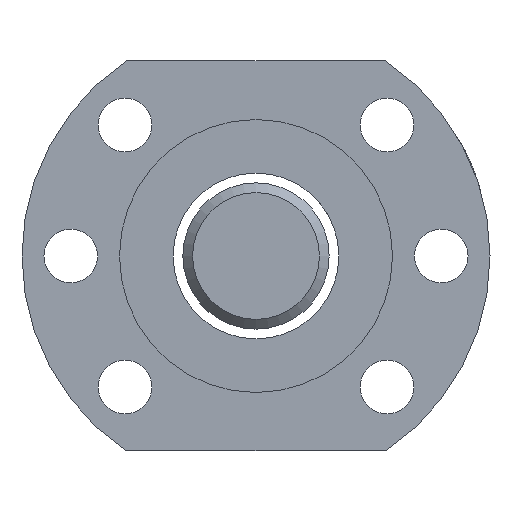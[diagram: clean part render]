
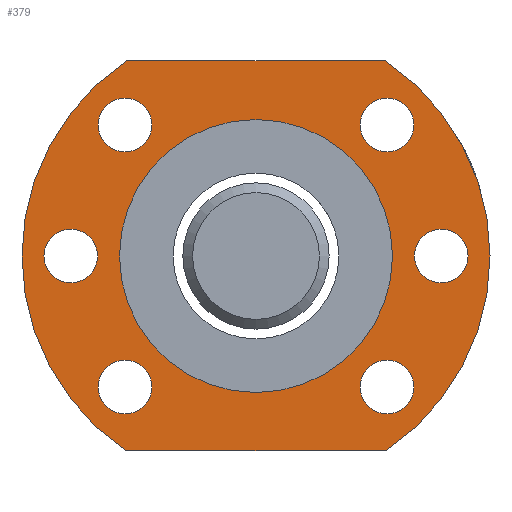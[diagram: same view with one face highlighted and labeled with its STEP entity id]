
A CAD part, left-side view. The second image highlights one B-rep face of the part: STEP entity #379.
In plain terms, the highlighted planar face has unit normal (-1, 0, 0).
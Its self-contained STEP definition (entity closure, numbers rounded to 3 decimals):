
#17 = VECTOR ( 'NONE', #1258, 1000. ) ;
#25 = DIRECTION ( 'NONE',  ( -1., 0., 0. ) ) ;
#76 = DIRECTION ( 'NONE',  ( 1., 0., 0. ) ) ;
#101 = AXIS2_PLACEMENT_3D ( 'NONE', #1695, #318, #152 ) ;
#151 = FACE_BOUND ( 'NONE', #1978, .T. ) ;
#152 = DIRECTION ( 'NONE',  ( 0., 0., 1. ) ) ;
#158 = AXIS2_PLACEMENT_3D ( 'NONE', #2393, #587, #1164 ) ;
#179 = PLANE ( 'NONE',  #158 ) ;
#199 = CARTESIAN_POINT ( 'NONE',  ( -26.222, -38.281, -16.935 ) ) ;
#224 = EDGE_CURVE ( 'NONE', #1933, #1960, #2389, .T. ) ;
#264 = DIRECTION ( 'NONE',  ( 0., 0., 1. ) ) ;
#275 = LINE ( 'NONE', #1031, #17 ) ;
#300 = CARTESIAN_POINT ( 'NONE',  ( -26.222, -64.982, -10.37 ) ) ;
#318 = DIRECTION ( 'NONE',  ( -1., 0., 0. ) ) ;
#345 = ORIENTED_EDGE ( 'NONE', *, *, #2017, .T. ) ;
#358 = ORIENTED_EDGE ( 'NONE', *, *, #224, .T. ) ;
#376 = VECTOR ( 'NONE', #2457, 1000. ) ;
#379 = ADVANCED_FACE ( 'NONE', ( #779, #151, #1384, #1191, #1983, #836, #1968, #2565 ), #179, .T. ) ;
#402 = ORIENTED_EDGE ( 'NONE', *, *, #2535, .T. ) ;
#411 = CIRCLE ( 'NONE', #2461, 14. ) ;
#421 = CARTESIAN_POINT ( 'NONE',  ( -26.222, -64.814, -16.935 ) ) ;
#443 = CARTESIAN_POINT ( 'NONE',  ( -26.222, -38.112, 16.5 ) ) ;
#449 = AXIS2_PLACEMENT_3D ( 'NONE', #1902, #2155, #2532 ) ;
#460 = ORIENTED_EDGE ( 'NONE', *, *, #1127, .T. ) ;
#485 = EDGE_CURVE ( 'NONE', #1165, #1165, #1490, .T. ) ;
#487 = VERTEX_POINT ( 'NONE', #2431 ) ;
#489 = EDGE_LOOP ( 'NONE', ( #358, #345, #402, #1891 ) ) ;
#502 = ORIENTED_EDGE ( 'NONE', *, *, #1021, .F. ) ;
#513 = CARTESIAN_POINT ( 'NONE',  ( -26.222, -51.547, -10.935 ) ) ;
#553 = VERTEX_POINT ( 'NONE', #199 ) ;
#571 = ORIENTED_EDGE ( 'NONE', *, *, #2319, .F. ) ;
#575 = DIRECTION ( 'NONE',  ( 0., 0., -1. ) ) ;
#587 = DIRECTION ( 'NONE',  ( -1., 0., 0. ) ) ;
#663 = AXIS2_PLACEMENT_3D ( 'NONE', #443, #1445, #264 ) ;
#667 = DIRECTION ( 'NONE',  ( 0., 0., 1. ) ) ;
#704 = ORIENTED_EDGE ( 'NONE', *, *, #485, .F. ) ;
#746 = EDGE_LOOP ( 'NONE', ( #1312 ) ) ;
#753 = EDGE_CURVE ( 'NONE', #553, #1933, #1262, .T. ) ;
#763 = CARTESIAN_POINT ( 'NONE',  ( -26.222, -38.112, -10.37 ) ) ;
#779 = FACE_BOUND ( 'NONE', #2332, .T. ) ;
#794 = CARTESIAN_POINT ( 'NONE',  ( -26.222, -51.547, 3.065 ) ) ;
#804 = AXIS2_PLACEMENT_3D ( 'NONE', #2060, #855, #1655 ) ;
#836 = FACE_BOUND ( 'NONE', #888, .T. ) ;
#855 = DIRECTION ( 'NONE',  ( 1., 0., 0. ) ) ;
#888 = EDGE_LOOP ( 'NONE', ( #571 ) ) ;
#941 = CIRCLE ( 'NONE', #1319, 2.75 ) ;
#1003 = AXIS2_PLACEMENT_3D ( 'NONE', #763, #25, #1626 ) ;
#1021 = EDGE_CURVE ( 'NONE', #1476, #1476, #1803, .T. ) ;
#1031 = CARTESIAN_POINT ( 'NONE',  ( -26.222, -64.814, 23.065 ) ) ;
#1061 = ORIENTED_EDGE ( 'NONE', *, *, #1211, .T. ) ;
#1078 = VERTEX_POINT ( 'NONE', #1281 ) ;
#1080 = CARTESIAN_POINT ( 'NONE',  ( -26.222, -64.982, 16.5 ) ) ;
#1107 = DIRECTION ( 'NONE',  ( 0., 0., 1. ) ) ;
#1127 = EDGE_CURVE ( 'NONE', #487, #487, #1939, .T. ) ;
#1164 = DIRECTION ( 'NONE',  ( 0., 0., 1. ) ) ;
#1165 = VERTEX_POINT ( 'NONE', #1409 ) ;
#1176 = EDGE_LOOP ( 'NONE', ( #502 ) ) ;
#1191 = FACE_BOUND ( 'NONE', #2305, .T. ) ;
#1211 = EDGE_CURVE ( 'NONE', #1617, #1617, #2412, .T. ) ;
#1217 = CARTESIAN_POINT ( 'NONE',  ( -26.222, -38.281, 23.065 ) ) ;
#1231 = CIRCLE ( 'NONE', #101, 2.75 ) ;
#1258 = DIRECTION ( 'NONE',  ( 0., 1., 0. ) ) ;
#1262 = LINE ( 'NONE', #1844, #376 ) ;
#1281 = CARTESIAN_POINT ( 'NONE',  ( -26.222, -32.547, 5.815 ) ) ;
#1312 = ORIENTED_EDGE ( 'NONE', *, *, #2480, .F. ) ;
#1319 = AXIS2_PLACEMENT_3D ( 'NONE', #1080, #76, #1107 ) ;
#1384 = FACE_BOUND ( 'NONE', #2296, .T. ) ;
#1409 = CARTESIAN_POINT ( 'NONE',  ( -26.222, -38.112, -7.62 ) ) ;
#1421 = CARTESIAN_POINT ( 'NONE',  ( -26.222, -64.814, 23.065 ) ) ;
#1445 = DIRECTION ( 'NONE',  ( -1., 0., 0. ) ) ;
#1476 = VERTEX_POINT ( 'NONE', #2078 ) ;
#1490 = CIRCLE ( 'NONE', #1003, 2.75 ) ;
#1522 = EDGE_CURVE ( 'NONE', #2317, #2317, #941, .T. ) ;
#1569 = DIRECTION ( 'NONE',  ( -1., 0., 0. ) ) ;
#1617 = VERTEX_POINT ( 'NONE', #1688 ) ;
#1626 = DIRECTION ( 'NONE',  ( 0., 0., 1. ) ) ;
#1655 = DIRECTION ( 'NONE',  ( 0., 0., 1. ) ) ;
#1688 = CARTESIAN_POINT ( 'NONE',  ( -26.222, -64.982, -7.62 ) ) ;
#1695 = CARTESIAN_POINT ( 'NONE',  ( -26.222, -32.547, 3.065 ) ) ;
#1698 = VERTEX_POINT ( 'NONE', #1217 ) ;
#1704 = VERTEX_POINT ( 'NONE', #513 ) ;
#1783 = DIRECTION ( 'NONE',  ( 0., 0., -1. ) ) ;
#1789 = AXIS2_PLACEMENT_3D ( 'NONE', #794, #1569, #575 ) ;
#1803 = CIRCLE ( 'NONE', #663, 2.75 ) ;
#1844 = CARTESIAN_POINT ( 'NONE',  ( -26.222, -38.281, -16.935 ) ) ;
#1849 = AXIS2_PLACEMENT_3D ( 'NONE', #300, #2558, #667 ) ;
#1878 = ORIENTED_EDGE ( 'NONE', *, *, #1522, .T. ) ;
#1891 = ORIENTED_EDGE ( 'NONE', *, *, #753, .T. ) ;
#1902 = CARTESIAN_POINT ( 'NONE',  ( -26.222, -51.547, 3.065 ) ) ;
#1904 = CARTESIAN_POINT ( 'NONE',  ( -26.222, -64.982, 19.25 ) ) ;
#1933 = VERTEX_POINT ( 'NONE', #421 ) ;
#1939 = CIRCLE ( 'NONE', #804, 2.75 ) ;
#1960 = VERTEX_POINT ( 'NONE', #1421 ) ;
#1968 = FACE_OUTER_BOUND ( 'NONE', #489, .T. ) ;
#1970 = CARTESIAN_POINT ( 'NONE',  ( -26.222, -51.547, 3.065 ) ) ;
#1978 = EDGE_LOOP ( 'NONE', ( #704 ) ) ;
#1983 = FACE_BOUND ( 'NONE', #1176, .T. ) ;
#2009 = DIRECTION ( 'NONE',  ( -1., 0., 0. ) ) ;
#2017 = EDGE_CURVE ( 'NONE', #1960, #1698, #275, .T. ) ;
#2060 = CARTESIAN_POINT ( 'NONE',  ( -26.222, -70.547, 3.065 ) ) ;
#2078 = CARTESIAN_POINT ( 'NONE',  ( -26.222, -38.112, 19.25 ) ) ;
#2155 = DIRECTION ( 'NONE',  ( -1., 0., 0. ) ) ;
#2296 = EDGE_LOOP ( 'NONE', ( #460 ) ) ;
#2305 = EDGE_LOOP ( 'NONE', ( #1878 ) ) ;
#2317 = VERTEX_POINT ( 'NONE', #1904 ) ;
#2319 = EDGE_CURVE ( 'NONE', #1078, #1078, #1231, .T. ) ;
#2332 = EDGE_LOOP ( 'NONE', ( #1061 ) ) ;
#2336 = CIRCLE ( 'NONE', #1789, 24. ) ;
#2389 = CIRCLE ( 'NONE', #449, 24. ) ;
#2393 = CARTESIAN_POINT ( 'NONE',  ( -26.222, -51.547, 3.065 ) ) ;
#2412 = CIRCLE ( 'NONE', #1849, 2.75 ) ;
#2431 = CARTESIAN_POINT ( 'NONE',  ( -26.222, -70.547, 5.815 ) ) ;
#2457 = DIRECTION ( 'NONE',  ( 0., -1., 0. ) ) ;
#2461 = AXIS2_PLACEMENT_3D ( 'NONE', #1970, #2009, #1783 ) ;
#2480 = EDGE_CURVE ( 'NONE', #1704, #1704, #411, .T. ) ;
#2532 = DIRECTION ( 'NONE',  ( 0., 0., -1. ) ) ;
#2535 = EDGE_CURVE ( 'NONE', #1698, #553, #2336, .T. ) ;
#2558 = DIRECTION ( 'NONE',  ( 1., 0., 0. ) ) ;
#2565 = FACE_BOUND ( 'NONE', #746, .T. ) ;
